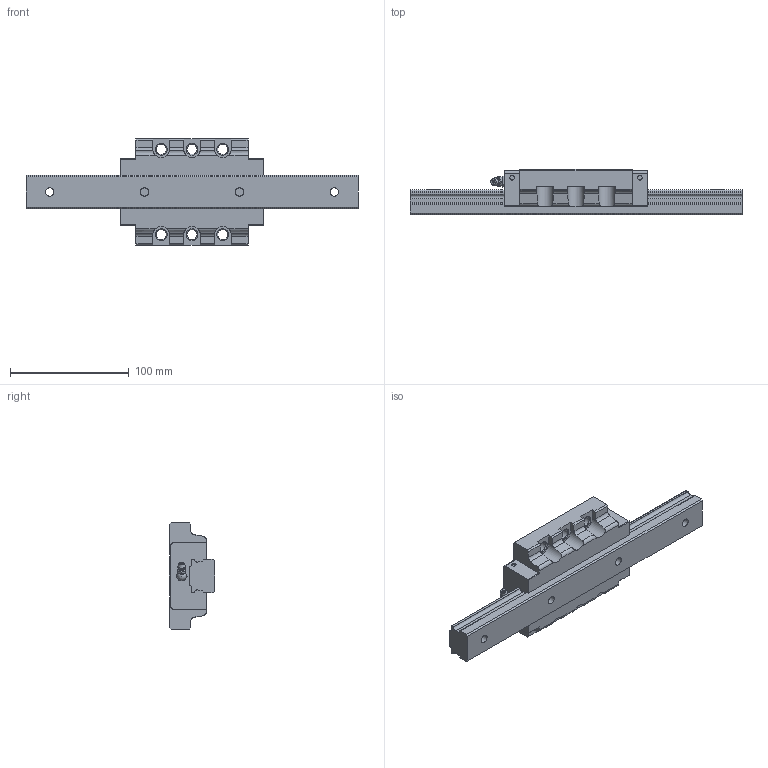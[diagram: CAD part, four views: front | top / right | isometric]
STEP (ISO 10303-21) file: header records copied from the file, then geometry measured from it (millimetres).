
FILE_DESCRIPTION(/* description */ ('STEP AP203'),/* implementation_level */ '2;1');
FILE_NAME(/* name */ 'SVR30LC1SS-280L_G20_0_B-M6F_79-75_0_0_0_1',/* time_stamp */ '2024-05-17T07:23:26+02:00',/* author */ ('License CC BY-ND 4.0'),/* organization */ ('CADENAS'),/* preprocessor_version */ 'ST-DEVELOPER v19.3',/* originating_system */ 'PARTsolutions',/* authorisation */ ' ');
FILE_SCHEMA (('CONFIG_CONTROL_DESIGN'));
Length unit declared in the file: millimetre
Products named in the file (4): SVR30LC1SS-280L_G20_0_B-M6F_79-75_0_0_0_1; SVR 30LC28020 R Track; SVR 30LC1SSB-M6F1 Slide; B-M6F_grease_nipple_joint1_SVR
Assembly tree (3 placements, depth 2):
  SVR30LC1SS-280L_G20_0_B-M6F_79-75_0_0_0_1
    SVR 30LC28020 R Track
    SVR 30LC1SSB-M6F1 Slide
    B-M6F_grease_nipple_joint1_SVR
Bounding box: 280 x 38 x 90 mm (x, y, z)
Volume: 370015.3 mm3; surface area: 68911.4 mm2
Topology: 3 solids, 3 shells, 242 faces, 656 edges, 429 vertices
Faces by surface type: plane 132, cylinder 80, cone 25, sphere 3, torus 2
Full cylindrical faces by diameter (mm): 3.9 x4, 4.917 x2, 6 x1, 7 x4, 8 x1, 8.5 x6, 11 x4
Entity records: 7555 total; most frequent: CARTESIAN_POINT 1475, DIRECTION 1238, ORIENTED_EDGE 1200, EDGE_CURVE 600, AXIS2_PLACEMENT_3D 440, VERTEX_POINT 421, LINE 358, VECTOR 358
